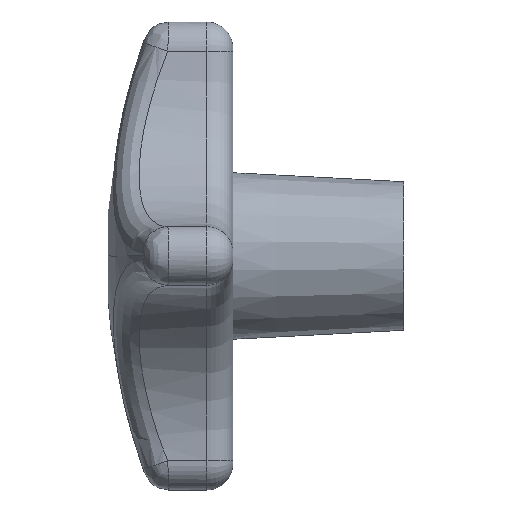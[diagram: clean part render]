
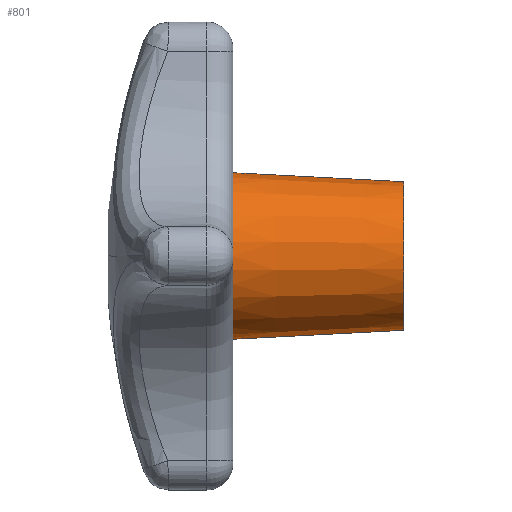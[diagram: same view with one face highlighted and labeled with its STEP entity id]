
A CAD part, left-side view. The second image highlights one B-rep face of the part: STEP entity #801.
In plain terms, the highlighted conical face has half-angle 3 degrees and reference radius 10 mm.
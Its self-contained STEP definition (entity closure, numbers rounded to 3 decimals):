
#62 = EDGE_CURVE ( 'NONE', #951, #737, #1087, .T. ) ;
#292 = ORIENTED_EDGE ( 'NONE', *, *, #790, .F. ) ;
#304 = EDGE_CURVE ( 'NONE', #938, #951, #1446, .T. ) ;
#305 = ORIENTED_EDGE ( 'NONE', *, *, #62, .T. ) ;
#306 = ORIENTED_EDGE ( 'NONE', *, *, #949, .F. ) ;
#307 = ORIENTED_EDGE ( 'NONE', *, *, #304, .T. ) ;
#737 = VERTEX_POINT ( 'NONE', #6359 ) ;
#790 = EDGE_CURVE ( 'NONE', #935, #737, #6352, .T. ) ;
#801 = ADVANCED_FACE ( 'NONE', ( #6401 ), #6400, .T. ) ;
#804 = EDGE_LOOP ( 'NONE', ( #306, #307, #305, #292 ) ) ;
#935 = VERTEX_POINT ( 'NONE', #6425 ) ;
#938 = VERTEX_POINT ( 'NONE', #6424 ) ;
#949 = EDGE_CURVE ( 'NONE', #938, #935, #6418, .T. ) ;
#951 = VERTEX_POINT ( 'NONE', #6414 ) ;
#1087 = LINE ( 'NONE', #1149, #1148 ) ;
#1147 = DIRECTION ( 'NONE',  ( 0., 0.999, 0.052 ) ) ;
#1148 = VECTOR ( 'NONE', #1147, 1000. ) ;
#1149 = CARTESIAN_POINT ( 'NONE',  ( 0., -23., 10. ) ) ;
#1442 = DIRECTION ( 'NONE',  ( 0., 0., 1. ) ) ;
#1443 = DIRECTION ( 'NONE',  ( 0., 1., 0. ) ) ;
#1444 = CARTESIAN_POINT ( 'NONE',  ( 0., -23., 0. ) ) ;
#1445 = AXIS2_PLACEMENT_3D ( 'NONE', #1444, #1443, #1442 ) ;
#1446 = CIRCLE ( 'NONE', #1445, 10. ) ;
#6348 = DIRECTION ( 'NONE',  ( 0., 0., 1. ) ) ;
#6349 = DIRECTION ( 'NONE',  ( 0., 1., 0. ) ) ;
#6350 = CARTESIAN_POINT ( 'NONE',  ( 0., 0., 0. ) ) ;
#6351 = AXIS2_PLACEMENT_3D ( 'NONE', #6350, #6349, #6348 ) ;
#6352 = CIRCLE ( 'NONE', #6351, 11.205 ) ;
#6359 = CARTESIAN_POINT ( 'NONE',  ( 0., 0., 11.205 ) ) ;
#6396 = DIRECTION ( 'NONE',  ( 0., 0., 1. ) ) ;
#6397 = DIRECTION ( 'NONE',  ( 0., 1., 0. ) ) ;
#6398 = AXIS2_PLACEMENT_3D ( 'NONE', #6399, #6397, #6396 ) ;
#6399 = CARTESIAN_POINT ( 'NONE',  ( 0., -23., 0. ) ) ;
#6400 = CONICAL_SURFACE ( 'NONE', #6398, 10., 0.052 ) ;
#6401 = FACE_OUTER_BOUND ( 'NONE', #804, .T. ) ;
#6414 = CARTESIAN_POINT ( 'NONE',  ( 0., -23., 10. ) ) ;
#6415 = DIRECTION ( 'NONE',  ( 0., 0.999, -0.052 ) ) ;
#6416 = VECTOR ( 'NONE', #6415, 1000. ) ;
#6417 = CARTESIAN_POINT ( 'NONE',  ( 0., -23., -10. ) ) ;
#6418 = LINE ( 'NONE', #6417, #6416 ) ;
#6424 = CARTESIAN_POINT ( 'NONE',  ( 0., -23., -10. ) ) ;
#6425 = CARTESIAN_POINT ( 'NONE',  ( 0., 0., -11.205 ) ) ;
